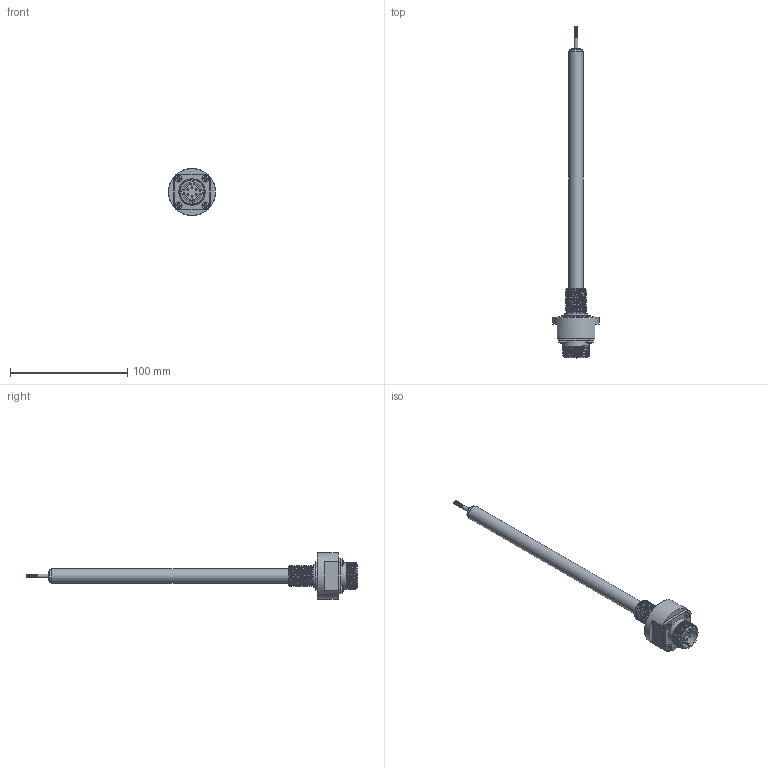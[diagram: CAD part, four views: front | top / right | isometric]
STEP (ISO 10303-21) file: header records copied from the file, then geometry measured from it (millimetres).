
FILE_DESCRIPTION( ( 'STEP AP214' ), '1' );
FILE_NAME( 'N:/Engineering/CAD_Solid/LVDT/HYD/Kunden-3D-Modell/SM120-HYD-18-S.stp', '2011-12-14T13:51:38', ( ' ' ), ( ' ' ), 'XStep 1.0', ' ', ' ' );
FILE_SCHEMA( ( 'CONFIG_CONTROL_DESIGN) ( )' ) );
Length unit declared in the file: metre
Products named in the file (17): 1; 2; 3; 4; 5; 6; 7; 8; 9; 10; 11; 12; 13; 14; 15; 16; 17
Bounding box: 40 x 282.9 x 40 mm (x, y, z)
Surface area: 20941.1 mm2
Topology: 1 solids, 122 shells, 130 faces, 587 edges, 542 vertices
Faces by surface type: plane 68, cylinder 37, bspline 13, cone 7, sphere 4, torus 1
Full cylindrical faces by diameter (mm): 1.6 x6, 2.4 x1, 3 x1, 4 x1, 6 x4, 8 x1, 11 x1, 12 x1, 15.8 x1, 17.6 x1, 20.2 x1, 22.3 x7, 24 x1, 40 x1
Entity records: 16353 total; most frequent: CARTESIAN_POINT 11390, DIRECTION 943, ORIENTED_EDGE 514, EDGE_CURVE 514, VERTEX_POINT 514, AXIS2_PLACEMENT_3D 358, CIRCLE 232, LINE 227
